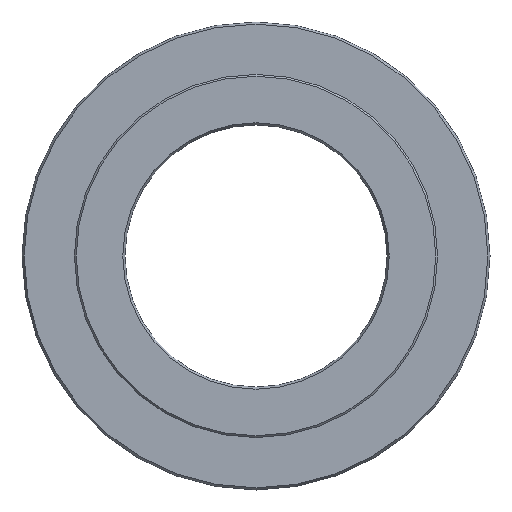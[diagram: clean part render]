
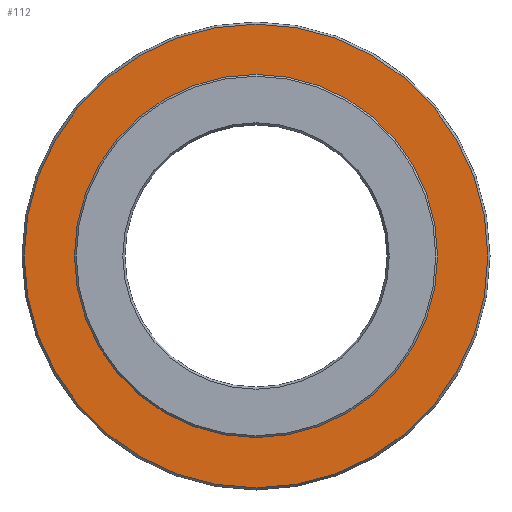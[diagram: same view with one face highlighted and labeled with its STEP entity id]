
A CAD part, left-side view. The second image highlights one B-rep face of the part: STEP entity #112.
In plain terms, the highlighted planar face has unit normal (-1, 0, 0).
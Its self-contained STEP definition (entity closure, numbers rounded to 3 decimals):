
#107=PLANE('',#279);
#112=ADVANCED_FACE('',(#131,#132),#107,.T.);
#131=FACE_BOUND('',#163,.T.);
#132=FACE_BOUND('',#164,.T.);
#163=EDGE_LOOP('',(#195));
#164=EDGE_LOOP('',(#196));
#195=ORIENTED_EDGE('',*,*,#243,.T.);
#196=ORIENTED_EDGE('',*,*,#244,.T.);
#227=VERTEX_POINT('',#379);
#228=VERTEX_POINT('',#381);
#243=EDGE_CURVE('',#227,#227,#259,.T.);
#244=EDGE_CURVE('',#228,#228,#260,.T.);
#259=CIRCLE('',#277,61.923);
#260=CIRCLE('',#278,48.5);
#277=AXIS2_PLACEMENT_3D('',#378,#314,#315);
#278=AXIS2_PLACEMENT_3D('',#380,#316,#317);
#279=AXIS2_PLACEMENT_3D('',#382,#318,#319);
#314=DIRECTION('',(-1.,0.,0.));
#315=DIRECTION('',(0.,0.,1.));
#316=DIRECTION('',(1.,0.,0.));
#317=DIRECTION('',(0.,0.,-1.));
#318=DIRECTION('',(-1.,0.,0.));
#319=DIRECTION('',(0.,0.,1.));
#378=CARTESIAN_POINT('',(0.,0.,0.));
#379=CARTESIAN_POINT('',(0.,0.,61.923));
#380=CARTESIAN_POINT('',(0.,0.,0.));
#381=CARTESIAN_POINT('',(0.,0.,-48.5));
#382=CARTESIAN_POINT('',(0.,62.5,0.));
